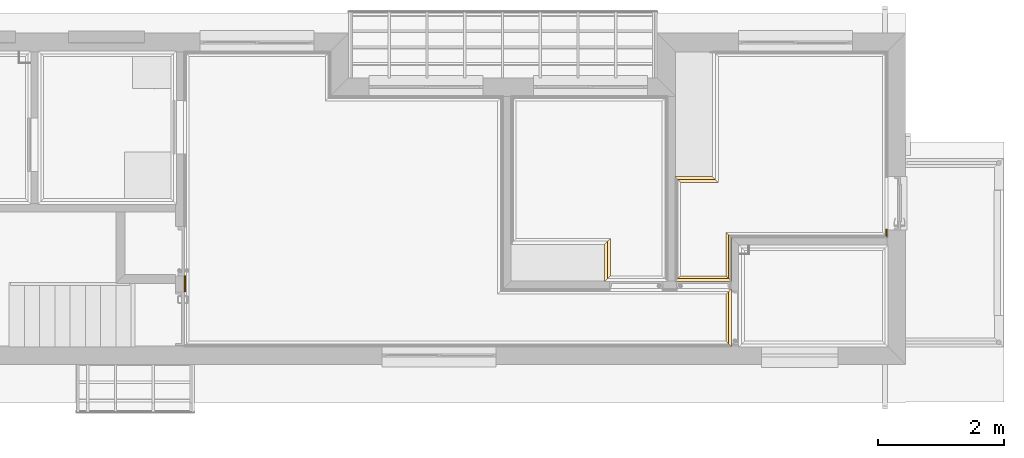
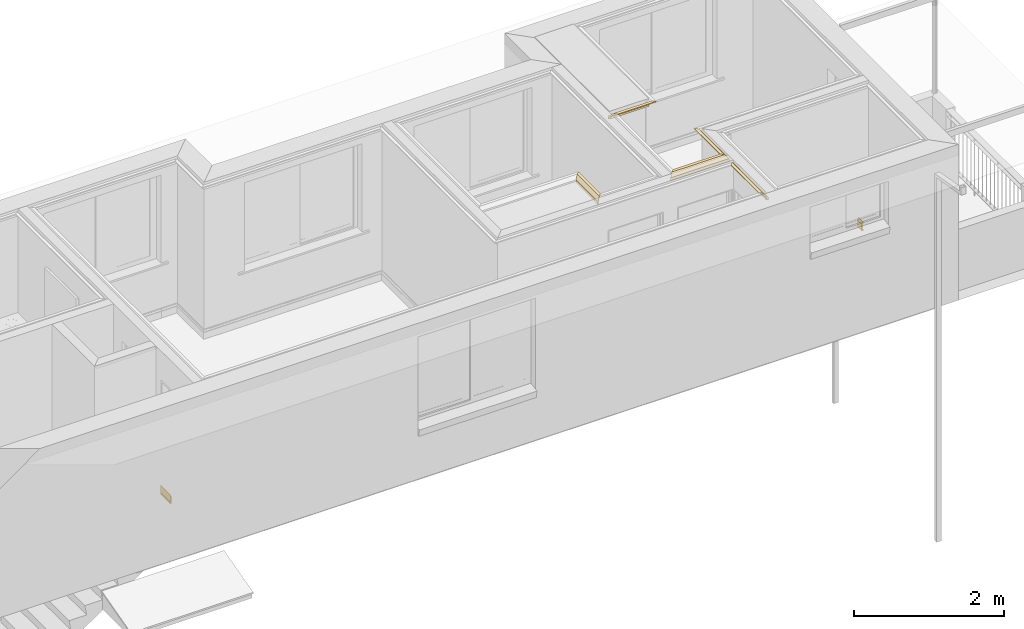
# One storey, part 15 of 18: 7 coverings.
"""IFC2X3 building model written with IfcOpenShell, lengths in millimetres."""

from ifc_helpers import new_model, entity, si_unit, converted_unit, money_unit, direction, frame, origin_with_axes, place, context, subcontext, project, spatial, faceted_brep, source, transform, mapped, material, type_object, element, save


model = new_model("IFC2X3")

# Units and contexts
model_context = context("Model", 3, precision=1e-05, world=origin_with_axes(), true_north=direction((0.0, 1.0)))
body_context = subcontext(model_context, "Body", "Model", "MODEL_VIEW")
ifc_project = project(units=[si_unit("LENGTHUNIT", "METRE", prefix="MILLI"), si_unit("AREAUNIT", "SQUARE_METRE"), si_unit("VOLUMEUNIT", "CUBIC_METRE"), converted_unit("PLANEANGLEUNIT", "DEGREE", entity("IfcPlaneAngleMeasure", 0.0174532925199), si_unit("PLANEANGLEUNIT", "RADIAN"), dimensions=[0, 0, 0, 0, 0, 0, 0]), si_unit("SOLIDANGLEUNIT", "STERADIAN"), money_unit("AUD"), si_unit("TIMEUNIT", "SECOND"), si_unit("MASSUNIT", "GRAM"), si_unit("THERMODYNAMICTEMPERATUREUNIT", "DEGREE_CELSIUS"), si_unit("LUMINOUSINTENSITYUNIT", "LUMEN")], contexts=[model_context])

# Site, building, storey
site_placement = place(None, origin_with_axes())
site = spatial("IfcSite", under=ifc_project, at=site_placement, Name="Lot 1. East Hills", CompositionType="ELEMENT")
building_placement = place(site_placement, origin_with_axes())
building = spatial("IfcBuilding", under=site, at=building_placement, Name="Proposed Units 7 & 8", CompositionType="ELEMENT")
storey_placement = place(building_placement, frame((0.0, 0.0, 5859.0), z_axis=(0.0, 0.0, 1.0), x_axis=(1.0, 0.0, 0.0)))
storey = spatial("IfcBuildingStorey", under=building, at=storey_placement, Name="Level 1", CompositionType="ELEMENT", Elevation=5859.0)

# Coverings
ifc_material = material(Name="50 %")
covering_type = type_object("IfcCoveringType", Name="Molding Straight 12", PredefinedType="NOTDEFINED")
shared_shape_1 = source(origin_with_axes(), body_context, "Body", "Brep", [
    faceted_brep([(-600.656985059, 0.0, -97.7142857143), (0.0, 0.0, -97.7142857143), (20.5714285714, -20.5714285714, -97.7142857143), (-580.085556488, -20.5714285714, -97.7142857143), (-600.656985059, 0.0, -48.8571428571), (0.0, 0.0, -48.8571428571), (48.8571428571, -48.8571428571, 0.0), (90.0, -90.0, 0.0), (90.0, -90.0, -12.8571428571), (74.5714285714, -74.5714285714, -12.8571428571), (74.5714285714, -74.5714285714, -25.7142857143), (60.5952001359, -60.5952001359, -27.5542910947), (47.5714285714, -47.5714285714, -32.9489139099), (36.3876623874, -36.3876623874, -41.5305195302), (27.8060567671, -27.8060567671, -52.7142857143), (22.4114339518, -22.4114339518, -65.7380572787), (20.5714285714, -20.5714285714, -79.7142857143), (-580.085556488, -20.5714285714, -79.7142857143), (-578.245551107, -22.4114339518, -65.7380572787), (-572.850928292, -27.8060567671, -52.7142857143), (-564.269322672, -36.3876623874, -41.5305195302), (-553.085556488, -47.5714285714, -32.9489139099), (-540.061784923, -60.5952001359, -27.5542910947), (-526.085556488, -74.5714285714, -25.7142857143), (-526.085556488, -74.5714285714, -12.8571428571), (-510.656985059, -90.0, -12.8571428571), (-510.656985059, -90.0, 0.0), (-551.799842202, -48.8571428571, 0.0)], [[[0, 1, 2, 3]], [[4, 5, 1, 0]], [[1, 5, 6, 7, 8, 9, 10, 11, 12, 13, 14, 15, 16, 2]], [[3, 2, 16, 17]], [[0, 3, 17, 18, 19, 20, 21, 22, 23, 24, 25, 26, 27, 4]], [[27, 6, 5, 4]], [[26, 7, 6, 27]], [[25, 8, 7, 26]], [[24, 9, 8, 25]], [[23, 10, 9, 24]], [[22, 11, 10, 23]], [[21, 12, 11, 22]], [[20, 13, 12, 21]], [[19, 14, 13, 20]], [[18, 15, 14, 19]], [[17, 16, 15, 18]]]),
])
covering_1_placement = place(storey_placement, frame((12760.6569844, 2982.99953451, 2523.0), z_axis=(0.0, 0.0, 1.0), x_axis=(1.0, 0.0, 0.0)))
element("IfcCovering", 1, at=covering_1_placement, inside=storey, type_object=covering_type, material=ifc_material, Name="CEL_MOD_126 - Molding Straight 12 - object -", PredefinedType="NOTDEFINED", context=body_context, shape_type="MappedRepresentation", body=[
    mapped(shared_shape_1, transform((0.0, 0.0, 0.0))),
])
shared_shape_2 = source(origin_with_axes(), body_context, "Body", "Brep", [
    faceted_brep([(930.000001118, 0.0, -97.7142857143), (909.428572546, -20.5714285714, -97.7142857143), (20.5714285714, -20.5714285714, -97.7142857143), (0.0, 0.0, -97.7142857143), (930.000001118, 0.0, -48.8571428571), (881.14285826, -48.8571428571, 0.0), (840.000001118, -90.0, 0.0), (840.000001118, -90.0, -12.8571428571), (855.428572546, -74.5714285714, -12.8571428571), (855.428572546, -74.5714285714, -25.7142857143), (869.404800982, -60.5952001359, -27.5542910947), (882.428572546, -47.5714285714, -32.9489139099), (893.61233873, -36.3876623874, -41.5305195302), (902.193944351, -27.8060567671, -52.7142857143), (907.588567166, -22.4114339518, -65.7380572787), (909.428572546, -20.5714285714, -79.7142857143), (20.5714285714, -20.5714285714, -79.7142857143), (22.4114339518, -22.4114339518, -65.7380572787), (27.8060567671, -27.8060567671, -52.7142857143), (36.3876623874, -36.3876623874, -41.5305195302), (47.5714285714, -47.5714285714, -32.9489139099), (60.5952001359, -60.5952001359, -27.5542910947), (74.5714285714, -74.5714285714, -25.7142857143), (74.5714285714, -74.5714285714, -12.8571428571), (90.0, -90.0, -12.8571428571), (90.0, -90.0, 0.0), (48.8571428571, -48.8571428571, 0.0), (0.0, 0.0, -48.8571428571)], [[[0, 1, 2, 3]], [[0, 4, 5, 6, 7, 8, 9, 10, 11, 12, 13, 14, 15, 1]], [[1, 15, 16, 2]], [[3, 2, 16, 17, 18, 19, 20, 21, 22, 23, 24, 25, 26, 27]], [[4, 0, 3, 27]], [[5, 4, 27, 26]], [[6, 5, 26, 25]], [[7, 6, 25, 24]], [[8, 7, 24, 23]], [[9, 8, 23, 22]], [[10, 9, 22, 21]], [[11, 10, 21, 20]], [[12, 11, 20, 19]], [[13, 12, 19, 18]], [[14, 13, 18, 17]], [[15, 14, 17, 16]]]),
])
covering_2_placement = place(storey_placement, frame((13065.0000012, 1208.00000045, 2523.0), z_axis=(0.0, 0.0, 1.0), x_axis=(0.0, -1.0, 0.0)))
element("IfcCovering", 2, at=covering_2_placement, inside=storey, type_object=covering_type, material=ifc_material, Name="CEL_MOD_112 - Molding Straight 12 - object -", PredefinedType="NOTDEFINED", context=body_context, shape_type="MappedRepresentation", body=[
    mapped(shared_shape_2, transform((0.0, 0.0, 0.0))),
])
shared_shape_3 = source(origin_with_axes(), body_context, "Body", "Brep", [
    faceted_brep([(-590.656517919, 0.0, -97.7142857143), (0.0, 0.0, -97.7142857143), (20.5714285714, -20.5714285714, -97.7142857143), (-570.085089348, -20.5714285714, -97.7142857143), (-590.656517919, 0.0, -48.8571428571), (0.0, 0.0, -48.8571428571), (48.8571428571, -48.8571428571, 0.0), (90.0, -90.0, 0.0), (90.0, -90.0, -12.8571428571), (74.5714285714, -74.5714285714, -12.8571428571), (74.5714285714, -74.5714285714, -25.7142857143), (60.5952001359, -60.5952001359, -27.5542910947), (47.5714285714, -47.5714285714, -32.9489139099), (36.3876623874, -36.3876623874, -41.5305195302), (27.8060567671, -27.8060567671, -52.7142857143), (22.4114339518, -22.4114339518, -65.7380572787), (20.5714285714, -20.5714285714, -79.7142857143), (-570.085089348, -20.5714285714, -79.7142857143), (-568.245083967, -22.4114339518, -65.7380572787), (-562.850461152, -27.8060567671, -52.7142857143), (-554.268855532, -36.3876623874, -41.5305195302), (-543.085089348, -47.5714285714, -32.9489139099), (-530.061317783, -60.5952001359, -27.5542910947), (-516.085089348, -74.5714285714, -25.7142857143), (-516.085089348, -74.5714285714, -12.8571428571), (-500.656517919, -90.0, -12.8571428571), (-500.656517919, -90.0, 0.0), (-541.799375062, -48.8571428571, 0.0)], [[[0, 1, 2, 3]], [[4, 5, 1, 0]], [[1, 5, 6, 7, 8, 9, 10, 11, 12, 13, 14, 15, 16, 2]], [[3, 2, 16, 17]], [[0, 3, 17, 18, 19, 20, 21, 22, 23, 24, 25, 26, 27, 4]], [[27, 6, 5, 4]], [[26, 7, 6, 27]], [[25, 8, 7, 26]], [[24, 9, 8, 25]], [[23, 10, 9, 24]], [[22, 11, 10, 23]], [[21, 12, 11, 22]], [[20, 13, 12, 21]], [[19, 14, 13, 20]], [[18, 15, 14, 19]], [[17, 16, 15, 18]]]),
])
covering_3_placement = place(storey_placement, frame((11044.999976, 1908.65651844, 2523.0), z_axis=(0.0, 0.0, 1.0), x_axis=(0.0, 1.0, 0.0)))
element("IfcCovering", 3, at=covering_3_placement, inside=storey, type_object=covering_type, material=ifc_material, Name="CEL_MOD_107 - Molding Straight 12 - object -", PredefinedType="NOTDEFINED", context=body_context, shape_type="MappedRepresentation", body=[
    mapped(shared_shape_3, transform((0.0, 0.0, 0.0))),
])
shared_shape_4 = source(origin_with_axes(), body_context, "Body", "Brep", [
    faceted_brep([(689.999998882, 0.0, -97.7142857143), (669.428570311, -20.5714285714, -97.7142857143), (-20.5714285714, -20.5714285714, -97.7142857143), (0.0, 0.0, -97.7142857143), (689.999998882, 0.0, -48.8571428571), (641.142856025, -48.8571428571, 0.0), (599.999998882, -90.0, 0.0), (599.999998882, -90.0, -12.8571428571), (615.428570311, -74.5714285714, -12.8571428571), (615.428570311, -74.5714285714, -25.7142857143), (629.404798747, -60.5952001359, -27.5542910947), (642.428570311, -47.5714285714, -32.9489139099), (653.612336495, -36.3876623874, -41.5305195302), (662.193942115, -27.8060567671, -52.7142857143), (667.588564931, -22.4114339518, -65.7380572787), (669.428570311, -20.5714285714, -79.7142857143), (-20.5714285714, -20.5714285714, -79.7142857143), (-22.4114339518, -22.4114339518, -65.7380572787), (-27.8060567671, -27.8060567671, -52.7142857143), (-36.3876623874, -36.3876623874, -41.5305195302), (-47.5714285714, -47.5714285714, -32.9489139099), (-60.5952001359, -60.5952001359, -27.5542910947), (-74.5714285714, -74.5714285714, -25.7142857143), (-74.5714285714, -74.5714285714, -12.8571428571), (-90.0, -90.0, -12.8571428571), (-90.0, -90.0, 0.0), (-48.8571428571, -48.8571428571, 0.0), (0.0, 0.0, -48.8571428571)], [[[0, 1, 2, 3]], [[0, 4, 5, 6, 7, 8, 9, 10, 11, 12, 13, 14, 15, 1]], [[1, 15, 16, 2]], [[3, 2, 16, 17, 18, 19, 20, 21, 22, 23, 24, 25, 26, 27]], [[4, 0, 3, 27]], [[5, 4, 27, 26]], [[6, 5, 26, 25]], [[7, 6, 25, 24]], [[8, 7, 24, 23]], [[9, 8, 23, 22]], [[10, 9, 22, 21]], [[11, 10, 21, 20]], [[12, 11, 20, 19]], [[13, 12, 19, 18]], [[14, 13, 18, 17]], [[15, 14, 17, 16]]]),
])
covering_4_placement = place(storey_placement, frame((13065.0000006, 2007.99999873, 2523.0), z_axis=(0.0, 0.0, 1.0), x_axis=(0.0, -1.0, 0.0)))
element("IfcCovering", 4, at=covering_4_placement, inside=storey, type_object=covering_type, material=ifc_material, Name="CEL_MOD_104 - Molding Straight 12 - object -", PredefinedType="NOTDEFINED", context=body_context, shape_type="MappedRepresentation", body=[
    mapped(shared_shape_4, transform((0.0, 0.0, 0.0))),
])
shared_shape_5 = source(origin_with_axes(), body_context, "Body", "Brep", [
    faceted_brep([(905.000001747, 0.0, -97.7142857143), (884.428573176, -20.5714285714, -97.7142857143), (20.5714285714, -20.5714285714, -97.7142857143), (0.0, 0.0, -97.7142857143), (905.000001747, 0.0, -48.8571428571), (856.14285889, -48.8571428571, 0.0), (815.000001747, -90.0, 0.0), (815.000001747, -90.0, -12.8571428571), (830.428573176, -74.5714285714, -12.8571428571), (830.428573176, -74.5714285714, -25.7142857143), (844.404801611, -60.5952001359, -27.5542910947), (857.428573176, -47.5714285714, -32.9489139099), (868.61233936, -36.3876623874, -41.5305195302), (877.19394498, -27.8060567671, -52.7142857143), (882.588567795, -22.4114339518, -65.7380572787), (884.428573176, -20.5714285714, -79.7142857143), (20.5714285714, -20.5714285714, -79.7142857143), (22.4114339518, -22.4114339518, -65.7380572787), (27.8060567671, -27.8060567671, -52.7142857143), (36.3876623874, -36.3876623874, -41.5305195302), (47.5714285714, -47.5714285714, -32.9489139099), (60.5952001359, -60.5952001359, -27.5542910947), (74.5714285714, -74.5714285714, -25.7142857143), (74.5714285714, -74.5714285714, -12.8571428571), (90.0, -90.0, -12.8571428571), (90.0, -90.0, 0.0), (48.8571428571, -48.8571428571, 0.0), (0.0, 0.0, -48.8571428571)], [[[0, 1, 2, 3]], [[0, 4, 5, 6, 7, 8, 9, 10, 11, 12, 13, 14, 15, 1]], [[1, 15, 16, 2]], [[3, 2, 16, 17, 18, 19, 20, 21, 22, 23, 24, 25, 26, 27]], [[4, 0, 3, 27]], [[5, 4, 27, 26]], [[6, 5, 26, 25]], [[7, 6, 25, 24]], [[8, 7, 24, 23]], [[9, 8, 23, 22]], [[10, 9, 22, 21]], [[11, 10, 21, 20]], [[12, 11, 20, 19]], [[13, 12, 19, 18]], [[14, 13, 18, 17]], [[15, 14, 17, 16]]]),
])
covering_5_placement = place(storey_placement, frame((13065.0000011, 1317.99999985, 2523.0), z_axis=(0.0, 0.0, 1.0), x_axis=(-1.0, 0.0, 0.0)))
element("IfcCovering", 5, at=covering_5_placement, inside=storey, type_object=covering_type, material=ifc_material, Name="CEL_MOD_103 - Molding Straight 12 - object -", PredefinedType="NOTDEFINED", context=body_context, shape_type="MappedRepresentation", body=[
    mapped(shared_shape_5, transform((0.0, 0.0, 0.0))),
])
shared_shape_6 = source(origin_with_axes(), body_context, "Body", "Brep", [
    faceted_brep([(256.66388744, -19.0298507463, -150.0), (256.66388744, -19.0298507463, -40.2985074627), (-0.000143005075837, -19.0298507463, -40.2985074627), (-0.000143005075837, -19.0298507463, -150.0), (256.664030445, 0.0, -150.0), (256.664030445, 0.0, -120.895522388), (256.664013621, -2.23880597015, -118.656716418), (256.664013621, -2.23880597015, -24.6268656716), (256.664030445, 0.0, -22.3880597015), (256.664030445, 0.0, 0.0), (256.663979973, -6.71641791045, 0.0), (256.663963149, -8.9552238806, -4.4776119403), (256.663961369, -9.19197067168, -5.17383533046), (256.66396106, -9.23315907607, -5.90805571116), (256.663962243, -9.07576633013, -6.62638959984), (256.663964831, -8.73134328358, -7.27611940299), (256.66396904, -8.1712130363, -8.36014699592), (256.663970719, -7.94776119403, -9.55970149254), (256.663968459, -8.2485368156, -12.6066468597), (256.663960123, -9.35788915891, -15.4603601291), (256.663946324, -11.1940298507, -17.9104477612), (256.663913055, -15.6211975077, -24.0923863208), (256.663895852, -17.9104477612, -31.3432835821), (256.663895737, -17.9257206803, -33.6342255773), (256.663900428, -17.3014780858, -35.8385326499), (256.663909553, -16.087254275, -37.7812907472), (256.663922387, -14.3793991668, -39.3083399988), (256.663937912, -12.3134328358, -40.2985074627), (-9.25326961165e-05, -12.3134328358, -40.2985074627), (-0.00010805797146, -14.3793991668, -39.3083399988), (-0.000120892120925, -16.087254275, -37.7812907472), (-0.00013001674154, -17.3014780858, -35.8385326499), (-0.000134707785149, -17.9257206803, -33.6342255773), (-0.000134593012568, -17.9104477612, -31.3432835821), (-0.000117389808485, -15.6211975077, -24.0923863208), (-8.41206328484e-05, -11.1940298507, -17.9104477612), (-7.03224458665e-05, -9.35788915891, -15.4603601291), (-6.19859109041e-05, -8.2485368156, -12.6066468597), (-5.97256493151e-05, -7.94776119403, -9.55970149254), (-6.14048399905e-05, -8.1712130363, -8.36014699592), (-6.56140936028e-05, -8.73134328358, -7.27611940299), (-6.8202355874e-05, -9.07576633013, -6.62638959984), (-6.93851271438e-05, -9.23315907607, -5.90805571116), (-6.90756055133e-05, -9.19197067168, -5.17383533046), (-6.72965062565e-05, -8.9552238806, -4.4776119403), (-5.04723797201e-05, -6.71641791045, 0.0), (0.0, 0.0, 0.0), (0.0, 0.0, -22.3880597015), (-1.68241265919e-05, -2.23880597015, -24.6268656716), (-1.68241265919e-05, -2.23880597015, -118.656716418), (0.0, 0.0, -120.895522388), (0.0, 0.0, -150.0)], [[[0, 1, 2, 3]], [[0, 4, 5, 6, 7, 8, 9, 10, 11, 12, 13, 14, 15, 16, 17, 18, 19, 20, 21, 22, 23, 24, 25, 26, 27, 1]], [[1, 27, 28, 2]], [[3, 2, 28, 29, 30, 31, 32, 33, 34, 35, 36, 37, 38, 39, 40, 41, 42, 43, 44, 45, 46, 47, 48, 49, 50, 51]], [[4, 0, 3, 51]], [[5, 4, 51, 50]], [[6, 5, 50, 49]], [[7, 6, 49, 48]], [[8, 7, 48, 47]], [[9, 8, 47, 46]], [[10, 9, 46, 45]], [[11, 10, 45, 44]], [[12, 11, 44, 43]], [[13, 12, 43, 42]], [[14, 13, 42, 41]], [[15, 14, 41, 40]], [[16, 15, 40, 39]], [[17, 16, 39, 38]], [[18, 17, 38, 37]], [[19, 18, 37, 36]], [[20, 19, 36, 35]], [[21, 20, 35, 34]], [[22, 21, 34, 33]], [[23, 22, 33, 32]], [[24, 23, 32, 31]], [[25, 24, 31, 30]], [[26, 25, 30, 29]], [[27, 26, 29, 28]]]),
])
covering_6_placement = place(storey_placement, frame((4365.03090329, 1150.49531164, 150.0), z_axis=(0.0, 0.0, 1.0), x_axis=(-7.51477654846e-06, 0.999999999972, 0.0)))
element("IfcCovering", 6, at=covering_6_placement, inside=storey, type_object=covering_type, material=ifc_material, Name="Sk_01 - Molding Straight 12 - object -", PredefinedType="NOTDEFINED", context=body_context, shape_type="MappedRepresentation", body=[
    mapped(shared_shape_6, transform((0.0, 0.0, 0.0))),
])
shared_shape_7 = source(origin_with_axes(), body_context, "Body", "Brep", [
    faceted_brep([(109.194608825, -19.0298507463, -150.0), (109.194608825, -19.0298507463, -40.2985074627), (0.0, -19.0298507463, -40.2985074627), (0.0, -19.0298507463, -150.0), (128.288634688, 0.0, -150.0), (128.288634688, 0.0, -120.895522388), (126.042278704, -2.23880597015, -118.656716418), (126.042278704, -2.23880597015, -24.6268656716), (128.288634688, 0.0, -22.3880597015), (128.288634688, 0.0, 0.0), (121.549566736, -6.71641791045, 0.0), (119.303210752, -8.9552238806, -4.4776119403), (119.065665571, -9.19197067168, -5.17383533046), (119.024338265, -9.23315907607, -5.90805571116), (119.182261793, -9.07576633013, -6.62638959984), (119.527846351, -8.73134328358, -7.27611940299), (120.089865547, -8.1712130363, -8.36014699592), (120.314070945, -7.94776119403, -9.55970149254), (120.012281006, -8.2485368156, -12.6066468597), (118.89918755, -9.35788915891, -15.4603601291), (117.056854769, -11.1940298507, -17.9104477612), (112.614757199, -15.6211975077, -24.0923863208), (110.317786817, -17.9104477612, -31.3432835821), (110.302462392, -17.9257206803, -33.6342255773), (110.928810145, -17.3014780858, -35.8385326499), (112.14712873, -16.087254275, -37.7812907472), (113.860743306, -14.3793991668, -39.3083399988), (115.933676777, -12.3134328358, -40.2985074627), (0.0, -12.3134328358, -40.2985074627), (0.0, -14.3793991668, -39.3083399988), (0.0, -16.087254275, -37.7812907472), (0.0, -17.3014780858, -35.8385326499), (0.0, -17.9257206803, -33.6342255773), (0.0, -17.9104477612, -31.3432835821), (0.0, -15.6211975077, -24.0923863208), (0.0, -11.1940298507, -17.9104477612), (0.0, -9.35788915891, -15.4603601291), (0.0, -8.2485368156, -12.6066468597), (0.0, -7.94776119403, -9.55970149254), (0.0, -8.1712130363, -8.36014699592), (0.0, -8.73134328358, -7.27611940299), (0.0, -9.07576633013, -6.62638959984), (0.0, -9.23315907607, -5.90805571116), (0.0, -9.19197067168, -5.17383533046), (0.0, -8.9552238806, -4.4776119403), (0.0, -6.71641791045, 0.0), (0.0, 0.0, 0.0), (0.0, 0.0, -22.3880597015), (0.0, -2.23880597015, -24.6268656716), (0.0, -2.23880597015, -118.656716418), (0.0, 0.0, -120.895522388), (0.0, 0.0, -150.0)], [[[0, 1, 2, 3]], [[0, 4, 5, 6, 7, 8, 9, 10, 11, 12, 13, 14, 15, 16, 17, 18, 19, 20, 21, 22, 23, 24, 25, 26, 27, 1]], [[1, 27, 28, 2]], [[3, 2, 28, 29, 30, 31, 32, 33, 34, 35, 36, 37, 38, 39, 40, 41, 42, 43, 44, 45, 46, 47, 48, 49, 50, 51]], [[4, 0, 3, 51]], [[5, 4, 51, 50]], [[6, 5, 50, 49]], [[7, 6, 49, 48]], [[8, 7, 48, 47]], [[9, 8, 47, 46]], [[10, 9, 46, 45]], [[11, 10, 45, 44]], [[12, 11, 44, 43]], [[13, 12, 43, 42]], [[14, 13, 42, 41]], [[15, 14, 41, 40]], [[16, 15, 40, 39]], [[17, 16, 39, 38]], [[18, 17, 38, 37]], [[19, 18, 37, 36]], [[20, 19, 36, 35]], [[21, 20, 35, 34]], [[22, 21, 34, 33]], [[23, 22, 33, 32]], [[24, 23, 32, 31]], [[25, 24, 31, 30]], [[26, 25, 30, 29]], [[27, 26, 29, 28]]]),
])
covering_7_placement = place(storey_placement, frame((15535.0000012, 2151.28863342, 150.0), z_axis=(0.0, 0.0, 1.0), x_axis=(0.0, -1.0, 0.0)))
element("IfcCovering", 7, at=covering_7_placement, inside=storey, type_object=covering_type, material=ifc_material, Name="Sk_01 - Molding Straight 12 - object -", PredefinedType="NOTDEFINED", context=body_context, shape_type="MappedRepresentation", body=[
    mapped(shared_shape_7, transform((0.0, 0.0, 0.0))),
])

save(model, "model.ifc")
